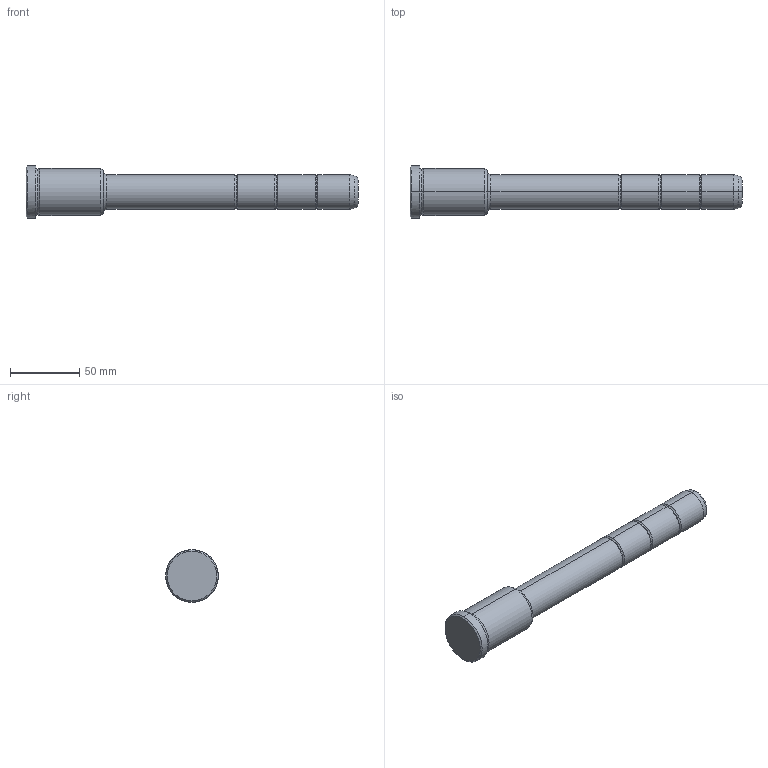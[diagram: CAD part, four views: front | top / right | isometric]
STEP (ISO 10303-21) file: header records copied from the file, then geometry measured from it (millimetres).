
FILE_DESCRIPTION(('CATIA V5 STEP Exchange'),'2;1');
FILE_NAME('C:\Users\Utente\Desktop\IO LAVORO\3D X SITO CF\X SITO\PLASTICA\351\351-25X56X240.stp','2021-09-07T10:12:16+00:00',('none'),('none'),'CATIA Version 5 Release 20 GA (IN-10)','CATIA V5 STEP AP203','none');
FILE_SCHEMA(('CONFIG_CONTROL_DESIGN'));
Length unit declared in the file: millimetre
Products named in the file (1): 351-25X56X240
Bounding box: 240 x 38 x 38 mm (x, y, z)
Volume: 141867.5 mm3; surface area: 22530.4 mm2
Topology: 1 solids, 1 shells, 42 faces, 118 edges, 80 vertices
Faces by surface type: torus 20, cylinder 12, cone 6, plane 4
Entity records: 1472 total; most frequent: CARTESIAN_POINT 353, ORIENTED_EDGE 236, DIRECTION 194, AXIS2_PLACEMENT_3D 135, EDGE_CURVE 118, CIRCLE 92, VERTEX_POINT 80, EDGE_LOOP 44
